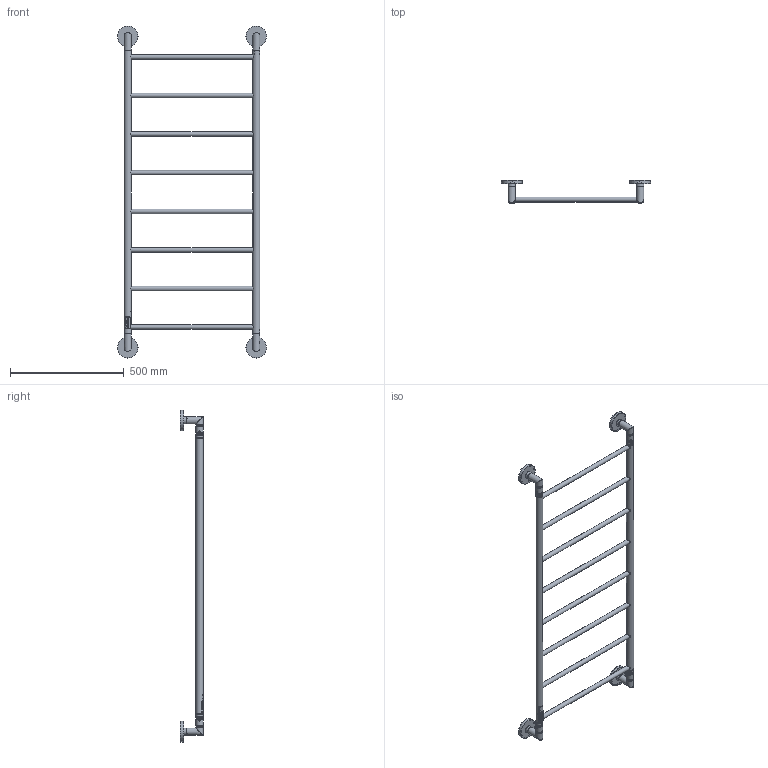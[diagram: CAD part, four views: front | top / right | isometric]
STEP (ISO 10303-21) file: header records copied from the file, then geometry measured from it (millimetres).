
FILE_DESCRIPTION(/* description */ ('Unknown'),/* implementation_level */ '2;1');
FILE_NAME(/* name */ 'NI2SS-R',/* time_stamp */ '2024-06-02T20:58:54+02:00',/* author */ ('Unknown'),/* organization */ ('Unknown'),/* preprocessor_version */ 'ST-DEVELOPER v18.102',/* originating_system */ 'Solid Edge',/* authorisation */ 'Unknown');
FILE_SCHEMA (('AUTOMOTIVE_DESIGN {1 0 10303 214 3 1 1}'));
Length unit declared in the file: millimetre
Products named in the file (15): NI-R-H-2- Niklas pravý 2; NI-R-V-L-TR-32-1-1250; NI-R-V-R-TR-32-1-1250; NI-H-R-TR-20-1-548; BW-K-1 - Koleno horní BW; PD-R-1 - Rozeta; BW-K-TR-R - Trubka kolena u rozety; BW-K-TR-K - Trubka kolena u konektoru; BW-K-2 - Koleno spodní BW; PD-K-1 - Konektor 30x60; PD-K-2 - Konektor 30x60 s dírou pro kabel; Sestava p鷫p璯a鋀; PD-P-1 - Spodní díl pøepínaèe; PD-P-2 - Horní díl pøepínaèe; PD-P-3 - Kryt p鷫p璯a鋀
Assembly tree (28 placements, depth 3):
  NI-R-H-2- Niklas pravý 2
    NI-R-V-L-TR-32-1-1250
    NI-R-V-R-TR-32-1-1250
    NI-H-R-TR-20-1-548  x8
    BW-K-1 - Koleno horní BW  x2
      PD-R-1 - Rozeta
      BW-K-TR-R - Trubka kolena u rozety
      BW-K-TR-K - Trubka kolena u konektoru
    BW-K-2 - Koleno spodní BW  x2
      PD-R-1 - Rozeta
      BW-K-TR-R - Trubka kolena u rozety
      BW-K-TR-K - Trubka kolena u konektoru
    PD-K-1 - Konektor 30x60  x3
    PD-K-2 - Konektor 30x60 s dírou pro kabel
    Sestava p鷫p璯a鋀
      PD-P-1 - Spodní díl pøepínaèe
      PD-P-2 - Horní díl pøepínaèe
      PD-P-3 - Kryt p鷫p璯a鋀
Bounding box: 657 x 101.64 x 1462 mm (x, y, z)
Volume: 803591.8 mm3; surface area: 1253496.9 mm2
Topology: 29 solids, 29 shells, 1026 faces, 2653 edges, 1685 vertices
Faces by surface type: cylinder 402, plane 396, torus 164, cone 24, bspline 22, sphere 18
Full cylindrical faces by diameter (mm): 2.4 x2, 3.4 x2, 4.3 x9, 5 x2, 5.2 x2, 5.5 x2, 12.5 x1, 18 x8, 20 x24, 21 x4, 23 x4, 25.1 x8, 26.1 x8, 28.5 x12, 29 x12, 29.5 x12, 30 x2, 32 x10, 81.8 x4, 87.2 x4, 91 x4
Entity records: 28192 total; most frequent: CARTESIAN_POINT 7934, ORIENTED_EDGE 3966, DIRECTION 3764, EDGE_CURVE 1983, AXIS2_PLACEMENT_3D 1448, VERTEX_POINT 1315, EDGE_LOOP 1066, FACE_BOUND 1066
